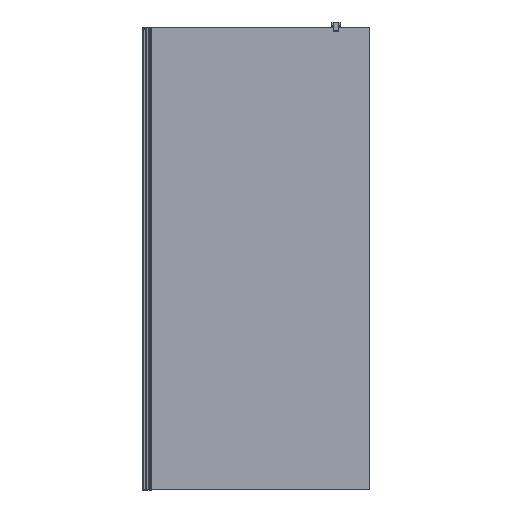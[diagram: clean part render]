
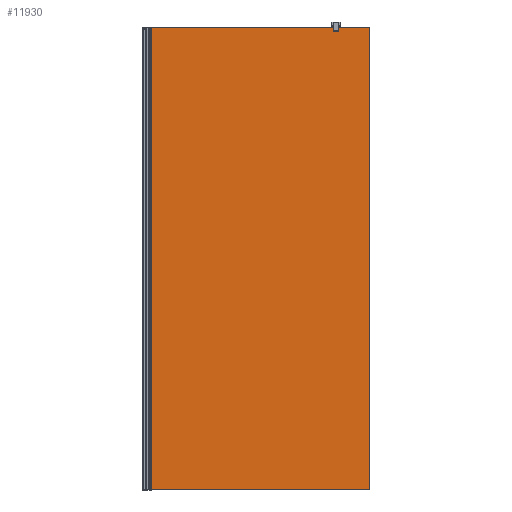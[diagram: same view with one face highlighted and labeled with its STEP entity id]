
A CAD part, top view. The second image highlights one B-rep face of the part: STEP entity #11930.
In plain terms, the highlighted planar face has unit normal (0, 0, 1).
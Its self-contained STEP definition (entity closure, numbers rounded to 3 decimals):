
#1334=FACE_OUTER_BOUND('',#2058,.T.);
#2058=EDGE_LOOP('',(#8715,#8716,#8717,#8718));
#2955=LINE('',#18392,#4071);
#2959=LINE('',#18401,#4075);
#2960=LINE('',#18403,#4076);
#2961=LINE('',#18404,#4077);
#4071=VECTOR('',#14691,10.);
#4075=VECTOR('',#14699,10.);
#4076=VECTOR('',#14700,10.);
#4077=VECTOR('',#14701,10.);
#5175=VERTEX_POINT('',#18385);
#5178=VERTEX_POINT('',#18390);
#5181=VERTEX_POINT('',#18400);
#5182=VERTEX_POINT('',#18402);
#6455=EDGE_CURVE('',#5178,#5175,#2955,.T.);
#6459=EDGE_CURVE('',#5181,#5175,#2959,.T.);
#6460=EDGE_CURVE('',#5182,#5178,#2960,.T.);
#6461=EDGE_CURVE('',#5181,#5182,#2961,.T.);
#8715=ORIENTED_EDGE('',*,*,#6459,.T.);
#8716=ORIENTED_EDGE('',*,*,#6455,.F.);
#8717=ORIENTED_EDGE('',*,*,#6460,.F.);
#8718=ORIENTED_EDGE('',*,*,#6461,.F.);
#11558=PLANE('',#12817);
#11930=ADVANCED_FACE('',(#1334),#11558,.T.);
#12817=AXIS2_PLACEMENT_3D('',#18399,#14697,#14698);
#14691=DIRECTION('',(0.,-1.,0.));
#14697=DIRECTION('center_axis',(0.,0.,
1.));
#14698=DIRECTION('ref_axis',(1.,0.,0.));
#14699=DIRECTION('',(1.,0.,0.));
#14700=DIRECTION('',(1.,0.,0.));
#14701=DIRECTION('',(0.,1.,0.));
#18385=CARTESIAN_POINT('',(216.75,0.,14.3));
#18390=CARTESIAN_POINT('',(216.75,2000.,14.3));
#18392=CARTESIAN_POINT('',(216.75,0.,14.3));
#18399=CARTESIAN_POINT('Origin',(-763.25,0.,14.3));
#18400=CARTESIAN_POINT('',(-763.25,0.,14.3));
#18401=CARTESIAN_POINT('',(-763.25,0.,14.3));
#18402=CARTESIAN_POINT('',(-763.25,2000.,14.3));
#18403=CARTESIAN_POINT('',(-763.25,2000.,14.3));
#18404=CARTESIAN_POINT('',(-763.25,0.,14.3));
